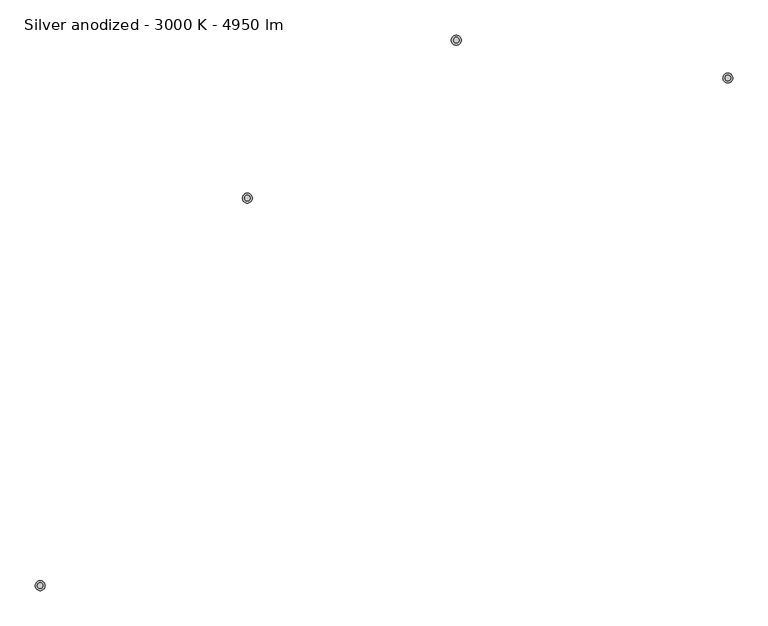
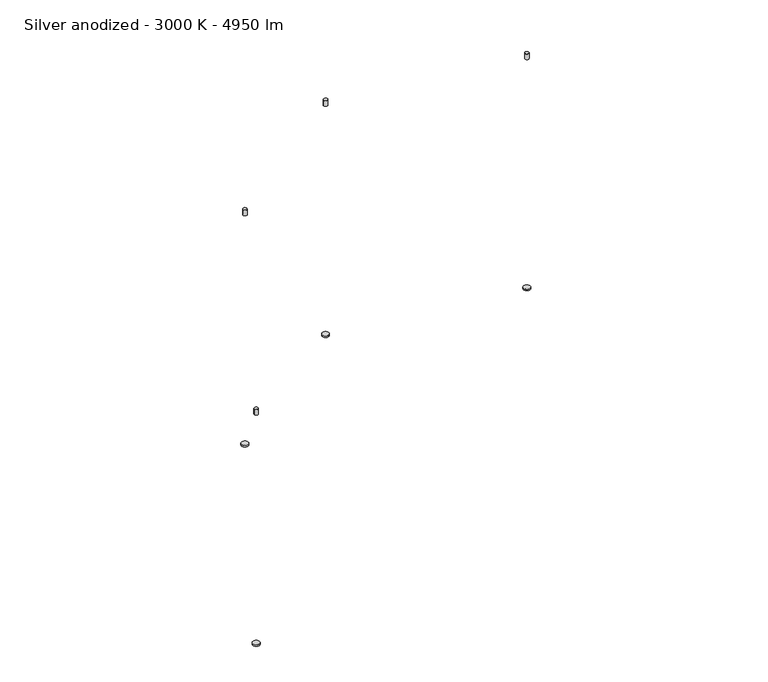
"""IFC4 building model written with IfcOpenShell, lengths in millimetres: light fixture geometry, KLUŚ - MIFOR - MI-BUBBLE-02 : Silver anodized - 3000 K - 4950 lm."""

from ifc_helpers import new_model, si_unit, point, frame, frame_2d, origin, origin_with_axes, place, context, project, spatial, circle_curve, trimmed, segment, composite_curve, outline, extrude, source, transform, mapped, element, save


def silver_anodized_3000_k_4950_lm_a8c92d9e(model_context):
    return source(origin(), model_context, "Body", "SweptSolid", [
        extrude(outline(composite_curve([segment(trimmed(circle_curve(frame_2d((-471.2729005, -431.9839492)), 4.0), [point((-467.2729005, -431.9839492))], [point((-475.2729005, -431.9839492))], False, "CARTESIAN"), True, "CONTINUOUS"), segment(trimmed(circle_curve(frame_2d((-471.2729005, -431.9839492)), 4.0), [point((-475.2729005, -431.9839492))], [point((-467.2729005, -431.9839492))], False, "CARTESIAN"), True, "CONTINUOUS")], self_intersect=False)), frame((0.0, 0.0, 504.0), z_axis=(0.0, 0.0, 1.0), x_axis=(1.0, 0.0, 0.0)), (0.0, 0.0, 1.0), 12.0),
        extrude(outline(composite_curve([segment(trimmed(circle_curve(frame_2d((-177.2500209, 117.915854)), 4.0), [point((-173.2500209, 117.915854))], [point((-181.2500209, 117.915854))], False, "CARTESIAN"), True, "CONTINUOUS"), segment(trimmed(circle_curve(frame_2d((-177.2500209, 117.915854)), 4.0), [point((-181.2500209, 117.915854))], [point((-173.2500209, 117.915854))], False, "CARTESIAN"), True, "CONTINUOUS")], self_intersect=False)), frame((0.0, 0.0, 504.0), z_axis=(0.0, 0.0, 1.0), x_axis=(1.0, 0.0, 0.0)), (0.0, 0.0, 1.0), 12.0),
        extrude(outline(composite_curve([segment(trimmed(circle_curve(frame_2d((119.2397592, 342.0391355)), 4.0), [point((123.2397592, 342.0391355))], [point((115.2397592, 342.0391355))], False, "CARTESIAN"), True, "CONTINUOUS"), segment(trimmed(circle_curve(frame_2d((119.2397592, 342.0391355)), 4.0), [point((115.2397592, 342.0391355))], [point((123.2397592, 342.0391355))], False, "CARTESIAN"), True, "CONTINUOUS")], self_intersect=False)), frame((0.0, 0.0, 504.0), z_axis=(0.0, 0.0, 1.0), x_axis=(1.0, 0.0, 0.0)), (0.0, 0.0, 1.0), 12.0),
        extrude(outline(composite_curve([segment(trimmed(circle_curve(frame_2d((504.5720282, 288.3522886)), 4.0), [point((508.5720282, 288.3522886))], [point((500.5720282, 288.3522886))], False, "CARTESIAN"), True, "CONTINUOUS"), segment(trimmed(circle_curve(frame_2d((504.5720282, 288.3522886)), 4.0), [point((500.5720282, 288.3522886))], [point((508.5720282, 288.3522886))], False, "CARTESIAN"), True, "CONTINUOUS")], self_intersect=False)), frame((0.0, 0.0, 504.0), z_axis=(0.0, 0.0, 1.0), x_axis=(1.0, 0.0, 0.0)), (0.0, 0.0, 1.0), 12.0),
        extrude(outline(composite_curve([segment(trimmed(circle_curve(frame_2d((-471.2729005, -431.9839492)), 7.0), [point((-464.2729005, -431.9839492))], [point((-478.2729005, -431.9839492))], False, "CARTESIAN"), True, "CONTINUOUS"), segment(trimmed(circle_curve(frame_2d((-471.2729005, -431.9839492)), 7.0), [point((-478.2729005, -431.9839492))], [point((-464.2729005, -431.9839492))], False, "CARTESIAN"), True, "CONTINUOUS")], self_intersect=False)), origin_with_axes(), (0.0, 0.0, 1.0), 3.0),
        extrude(outline(composite_curve([segment(trimmed(circle_curve(frame_2d((-177.2500209, 117.915854)), 7.0), [point((-170.2500209, 117.915854))], [point((-184.2500209, 117.915854))], False, "CARTESIAN"), True, "CONTINUOUS"), segment(trimmed(circle_curve(frame_2d((-177.2500209, 117.915854)), 7.0), [point((-184.2500209, 117.915854))], [point((-170.2500209, 117.915854))], False, "CARTESIAN"), True, "CONTINUOUS")], self_intersect=False)), origin_with_axes(), (0.0, 0.0, 1.0), 3.0),
        extrude(outline(composite_curve([segment(trimmed(circle_curve(frame_2d((119.2397592, 342.0391355)), 7.0), [point((126.2397592, 342.0391355))], [point((112.2397592, 342.0391355))], False, "CARTESIAN"), True, "CONTINUOUS"), segment(trimmed(circle_curve(frame_2d((119.2397592, 342.0391355)), 7.0), [point((112.2397592, 342.0391355))], [point((126.2397592, 342.0391355))], False, "CARTESIAN"), True, "CONTINUOUS")], self_intersect=False)), origin_with_axes(), (0.0, 0.0, 1.0), 3.0),
        extrude(outline(composite_curve([segment(trimmed(circle_curve(frame_2d((504.5720282, 288.3522886)), 7.0), [point((511.5720282, 288.3522886))], [point((497.5720282, 288.3522886))], False, "CARTESIAN"), True, "CONTINUOUS"), segment(trimmed(circle_curve(frame_2d((504.5720282, 288.3522886)), 7.0), [point((497.5720282, 288.3522886))], [point((511.5720282, 288.3522886))], False, "CARTESIAN"), True, "CONTINUOUS")], self_intersect=False)), origin_with_axes(), (0.0, 0.0, 1.0), 3.0),
    ])


if __name__ == "__main__":
    model = new_model("IFC4")
    model_context = context("Model", 3, world=origin())
    ifc_project = project(units=[si_unit("LENGTHUNIT", "METRE", prefix="MILLI")], contexts=[model_context])
    site = spatial("IfcSite", under=ifc_project)
    building = spatial("IfcBuilding", under=site)
    placement = place(None, origin())
    silver_anodized_3000_k_4950_lm_shape = silver_anodized_3000_k_4950_lm_a8c92d9e(model_context)
    element("IfcLightFixture", 1, ObjectType="KLUŚ - MIFOR - MI-BUBBLE-02 : Silver anodized - 3000 K - 4950 lm", at=placement, inside=building, context=model_context, shape_type="MappedRepresentation", body=[
        mapped(silver_anodized_3000_k_4950_lm_shape, transform((0.0, 0.0, 0.0), x_axis=(1.0, 0.0, 0.0), y_axis=(0.0, 1.0, 0.0), z_axis=(0.0, 0.0, 1.0))),
    ])
    save(model, "model.ifc")
